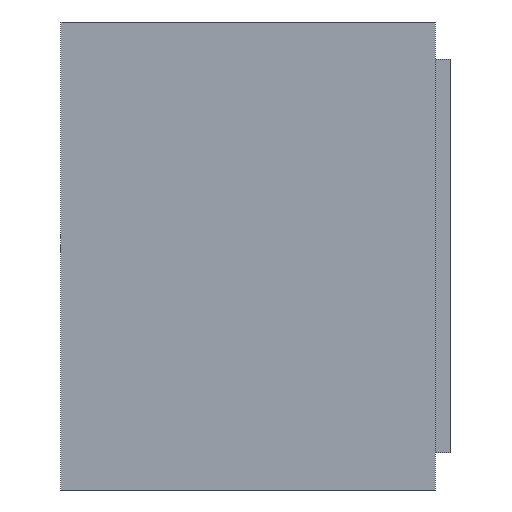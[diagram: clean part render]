
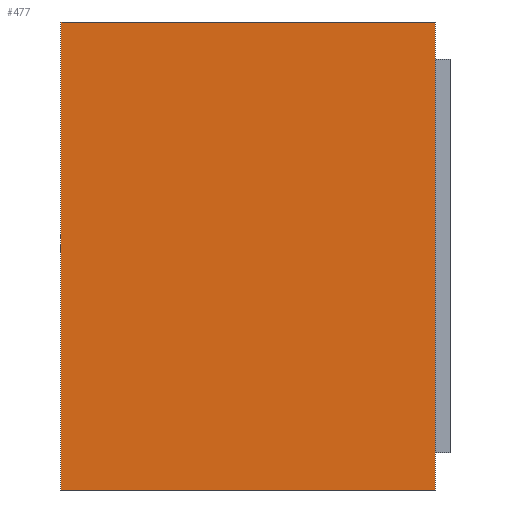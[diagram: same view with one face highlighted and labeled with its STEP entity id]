
A CAD part, left-side view. The second image highlights one B-rep face of the part: STEP entity #477.
In plain terms, the highlighted planar face has unit normal (-1, 0, 0).
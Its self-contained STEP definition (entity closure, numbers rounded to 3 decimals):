
#416 = CARTESIAN_POINT ( 'NONE',  ( -0.5, 0.02, -0.3 ) ) ;
#417 = VERTEX_POINT ( 'NONE', #416 ) ;
#424 = CARTESIAN_POINT ( 'NONE',  ( -0.5, 0.5, -0.3 ) ) ;
#425 = VERTEX_POINT ( 'NONE', #424 ) ;
#426 = CARTESIAN_POINT ( 'NONE',  ( -0.5, 0.5, -0.3 ) ) ;
#427 = DIRECTION ( 'NONE',  ( 0., -1., 0. ) ) ;
#428 = VECTOR ( 'NONE', #427, 1000. ) ;
#429 = LINE ( 'NONE', #426, #428 ) ;
#430 = EDGE_CURVE ( 'NONE', #425, #417, #429, .T. ) ;
#447 = CARTESIAN_POINT ( 'NONE',  ( -0.5, 0.02, 0.3 ) ) ;
#448 = VERTEX_POINT ( 'NONE', #447 ) ;
#449 = CARTESIAN_POINT ( 'NONE',  ( -0.5, 0.02, 0.3 ) ) ;
#450 = DIRECTION ( 'NONE',  ( 0., 0., 1. ) ) ;
#451 = VECTOR ( 'NONE', #450, 1000. ) ;
#452 = LINE ( 'NONE', #449, #451 ) ;
#453 = EDGE_CURVE ( 'NONE', #417, #448, #452, .T. ) ;
#454 = ORIENTED_EDGE ( 'NONE', *, *, #453, .T. ) ;
#455 = CARTESIAN_POINT ( 'NONE',  ( -0.5, 0.5, 0.3 ) ) ;
#456 = VERTEX_POINT ( 'NONE', #455 ) ;
#457 = CARTESIAN_POINT ( 'NONE',  ( -0.5, 0.5, 0.3 ) ) ;
#458 = DIRECTION ( 'NONE',  ( 0., -1., 0. ) ) ;
#459 = VECTOR ( 'NONE', #458, 1000. ) ;
#460 = LINE ( 'NONE', #457, #459 ) ;
#461 = EDGE_CURVE ( 'NONE', #456, #448, #460, .T. ) ;
#462 = ORIENTED_EDGE ( 'NONE', *, *, #461, .F. ) ;
#463 = CARTESIAN_POINT ( 'NONE',  ( -0.5, 0.5, 0.3 ) ) ;
#464 = DIRECTION ( 'NONE',  ( 0., 0., 1. ) ) ;
#465 = VECTOR ( 'NONE', #464, 1000. ) ;
#466 = LINE ( 'NONE', #463, #465 ) ;
#467 = EDGE_CURVE ( 'NONE', #425, #456, #466, .T. ) ;
#468 = ORIENTED_EDGE ( 'NONE', *, *, #467, .F. ) ;
#469 = ORIENTED_EDGE ( 'NONE', *, *, #430, .T. ) ;
#470 = EDGE_LOOP ( 'NONE', ( #454, #462, #468, #469 ) ) ;
#471 = FACE_OUTER_BOUND ( 'NONE', #470, .T. ) ;
#472 = CARTESIAN_POINT ( 'NONE',  ( -0.5, 0.5, 0.3 ) ) ;
#473 = DIRECTION ( 'NONE',  ( 1., 0., 0. ) ) ;
#474 = DIRECTION ( 'NONE',  ( 0., 0., -1. ) ) ;
#475 = AXIS2_PLACEMENT_3D ( 'NONE', #472, #473, #474 ) ;
#476 = PLANE ( 'NONE', #475 ) ;
#477 = ADVANCED_FACE ( 'NONE', ( #471 ), #476, .F. ) ;
